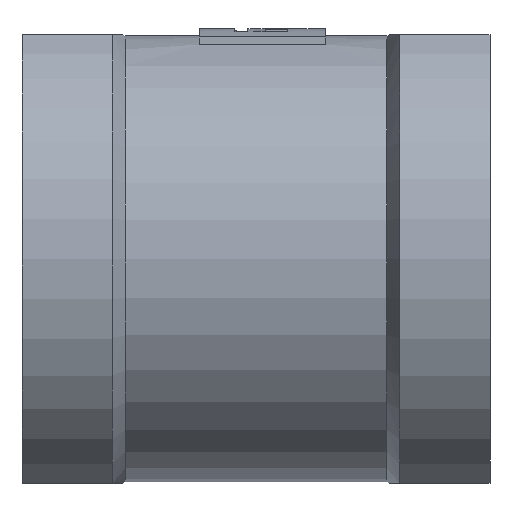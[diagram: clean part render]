
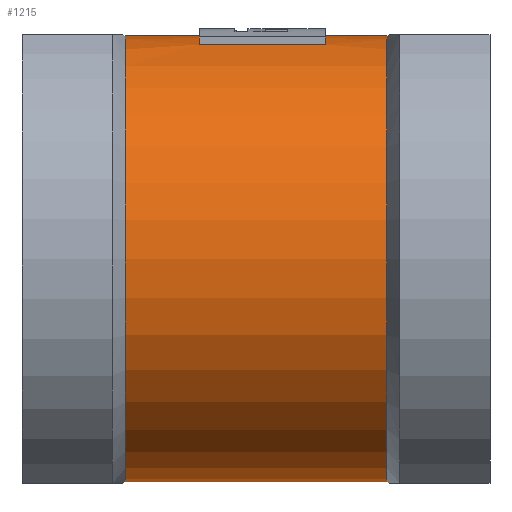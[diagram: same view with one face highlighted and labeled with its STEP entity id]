
A CAD part, front view. The second image highlights one B-rep face of the part: STEP entity #1215.
In plain terms, the highlighted cylindrical face has radius 15.15 mm (diameter 30.3 mm), a full revolution.
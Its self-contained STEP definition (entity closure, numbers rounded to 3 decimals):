
#63=FACE_BOUND('',#223,.T.);
#150=FACE_OUTER_BOUND('',#222,.T.);
#222=EDGE_LOOP('',(#895,#896,#897,#898,#899,#900));
#223=EDGE_LOOP('',(#901,#902,#903,#904));
#297=LINE('',#1914,#369);
#311=LINE('',#2037,#383);
#312=LINE('',#2044,#384);
#369=VECTOR('',#1470,10.);
#383=VECTOR('',#1516,10.);
#384=VECTOR('',#1523,15.15);
#434=CIRCLE('',#1309,15.15);
#439=CIRCLE('',#1322,15.15);
#440=CIRCLE('',#1325,15.15);
#441=CIRCLE('',#1326,15.15);
#442=CIRCLE('',#1327,15.15);
#443=CIRCLE('',#1328,15.15);
#505=VERTEX_POINT('',#1911);
#506=VERTEX_POINT('',#1913);
#507=VERTEX_POINT('',#1917);
#515=VERTEX_POINT('',#2033);
#516=VERTEX_POINT('',#2039);
#517=VERTEX_POINT('',#2040);
#518=VERTEX_POINT('',#2043);
#519=VERTEX_POINT('',#2045);
#641=EDGE_CURVE('',#506,#505,#297,.T.);
#644=EDGE_CURVE('',#505,#507,#434,.T.);
#661=EDGE_CURVE('',#515,#506,#439,.T.);
#663=EDGE_CURVE('',#507,#515,#311,.T.);
#664=EDGE_CURVE('',#516,#517,#440,.T.);
#665=EDGE_CURVE('',#517,#516,#441,.T.);
#666=EDGE_CURVE('',#517,#518,#312,.T.);
#667=EDGE_CURVE('',#518,#519,#442,.T.);
#668=EDGE_CURVE('',#519,#518,#443,.T.);
#895=ORIENTED_EDGE('',*,*,#664,.F.);
#896=ORIENTED_EDGE('',*,*,#665,.F.);
#897=ORIENTED_EDGE('',*,*,#666,.T.);
#898=ORIENTED_EDGE('',*,*,#667,.T.);
#899=ORIENTED_EDGE('',*,*,#668,.T.);
#900=ORIENTED_EDGE('',*,*,#666,.F.);
#901=ORIENTED_EDGE('',*,*,#641,.T.);
#902=ORIENTED_EDGE('',*,*,#644,.T.);
#903=ORIENTED_EDGE('',*,*,#663,.T.);
#904=ORIENTED_EDGE('',*,*,#661,.T.);
#1160=CYLINDRICAL_SURFACE('',#1324,15.15);
#1215=ADVANCED_FACE('',(#150,#63),#1160,.T.);
#1309=AXIS2_PLACEMENT_3D('',#1919,#1475,#1476);
#1322=AXIS2_PLACEMENT_3D('',#2034,#1511,#1512);
#1324=AXIS2_PLACEMENT_3D('',#2038,#1517,#1518);
#1325=AXIS2_PLACEMENT_3D('',#2041,#1519,#1520);
#1326=AXIS2_PLACEMENT_3D('',#2042,#1521,#1522);
#1327=AXIS2_PLACEMENT_3D('',#2046,#1524,#1525);
#1328=AXIS2_PLACEMENT_3D('',#2047,#1526,#1527);
#1470=DIRECTION('',(-1.,0.,0.));
#1475=DIRECTION('center_axis',(-1.,0.,0.));
#1476=DIRECTION('ref_axis',(0.,-1.,0.));
#1511=DIRECTION('center_axis',(1.,0.,0.));
#1512=DIRECTION('ref_axis',(0.,-1.,0.));
#1516=DIRECTION('',(1.,0.,0.));
#1517=DIRECTION('center_axis',(-1.,0.,0.));
#1518=DIRECTION('ref_axis',(0.,-1.,0.));
#1519=DIRECTION('center_axis',(-1.,0.,0.));
#1520=DIRECTION('ref_axis',(0.,0.,1.));
#1521=DIRECTION('center_axis',(-1.,0.,0.));
#1522=DIRECTION('ref_axis',(0.,0.,1.));
#1523=DIRECTION('',(1.,0.,0.));
#1524=DIRECTION('center_axis',(-1.,0.,0.));
#1525=DIRECTION('ref_axis',(0.,0.,1.));
#1526=DIRECTION('center_axis',(-1.,0.,0.));
#1527=DIRECTION('ref_axis',(0.,0.,1.));
#1911=CARTESIAN_POINT('',(-22.457,-4.17,14.565));
#1913=CARTESIAN_POINT('',(-13.887,-4.17,14.565));
#1914=CARTESIAN_POINT('',(-18.594,-4.17,14.565));
#1917=CARTESIAN_POINT('',(-22.457,4.33,14.518));
#1919=CARTESIAN_POINT('Origin',(-22.457,0.,
0.));
#2033=CARTESIAN_POINT('',(-13.887,4.33,14.518));
#2034=CARTESIAN_POINT('Origin',(-13.887,0.,
0.));
#2037=CARTESIAN_POINT('',(-18.594,4.33,14.518));
#2038=CARTESIAN_POINT('Origin',(-18.594,0.,
0.));
#2039=CARTESIAN_POINT('',(-27.494,-15.15,0.));
#2040=CARTESIAN_POINT('',(-27.494,15.15,0.));
#2041=CARTESIAN_POINT('Origin',(-27.494,0.,
0.));
#2042=CARTESIAN_POINT('Origin',(-27.494,0.,
0.));
#2043=CARTESIAN_POINT('',(-9.694,15.15,0.));
#2044=CARTESIAN_POINT('',(-18.594,15.15,0.));
#2045=CARTESIAN_POINT('',(-9.694,-15.15,0.));
#2046=CARTESIAN_POINT('Origin',(-9.694,0.,
0.));
#2047=CARTESIAN_POINT('Origin',(-9.694,0.,
0.));
